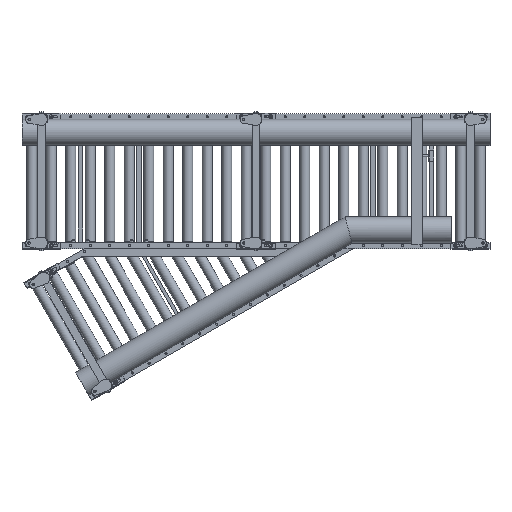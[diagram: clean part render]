
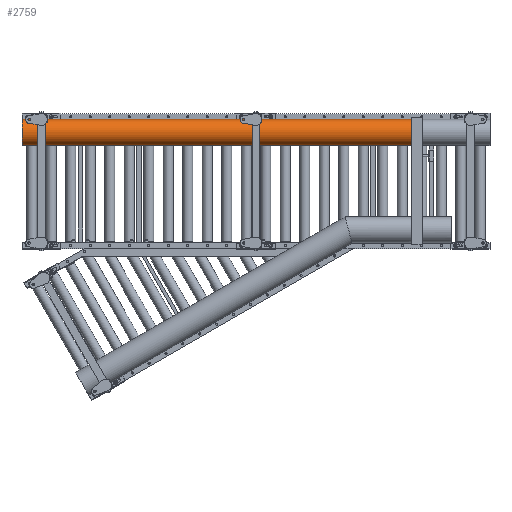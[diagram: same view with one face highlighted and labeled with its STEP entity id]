
A CAD part, front view. The second image highlights one B-rep face of the part: STEP entity #2759.
In plain terms, the highlighted cylindrical face has radius 66.89 mm (diameter 133.78 mm), a partial arc.
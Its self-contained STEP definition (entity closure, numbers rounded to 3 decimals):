
#2759=ADVANCED_FACE('',(#10707),#10706,.T.);
#10706=CYLINDRICAL_SURFACE('',#52342,66.89);
#10707=FACE_OUTER_BOUND('',#52343,.T.);
#52339=CARTESIAN_POINT('',(-2577.652,-150.,250.11));
#52340=DIRECTION('',(-1.,0.,0.));
#52341=DIRECTION('',(0.,0.,1.));
#52342=AXIS2_PLACEMENT_3D('',#52339,#52340,#52341);
#52343=EDGE_LOOP('',(#75222,#75223,#75224,#75225));
#75222=ORIENTED_EDGE('',*,*,#96773,.T.);
#75223=ORIENTED_EDGE('',*,*,#96715,.T.);
#75224=ORIENTED_EDGE('',*,*,#96736,.F.);
#75225=ORIENTED_EDGE('',*,*,#96563,.T.);
#96563=EDGE_CURVE('',#114920,#114913,#114921,.T.);
#96715=EDGE_CURVE('',#115865,#115884,#115891,.T.);
#96736=EDGE_CURVE('',#114920,#115884,#116026,.T.);
#96773=EDGE_CURVE('',#114913,#115865,#116274,.T.);
#114913=VERTEX_POINT('',#187387);
#114920=VERTEX_POINT('',#187391);
#114921=CIRCLE('',#187395,66.89);
#115865=VERTEX_POINT('',#187897);
#115884=VERTEX_POINT('',#187907);
#115891=CIRCLE('',#187914,66.89);
#116026=LINE('',#187984,#187985);
#116274=LINE('',#188121,#188122);
#187387=CARTESIAN_POINT('',(-2400.,-150.,183.22));
#187391=CARTESIAN_POINT('',(-2400.,-150.,317.));
#187392=CARTESIAN_POINT('',(-2400.,-150.,250.11));
#187393=DIRECTION('',(1.,0.,0.));
#187394=DIRECTION('',(0.,0.,-1.));
#187395=AXIS2_PLACEMENT_3D('',#187392,#187393,#187394);
#187897=CARTESIAN_POINT('',(-402.5,-150.,183.22));
#187907=CARTESIAN_POINT('',(-402.5,-150.,317.));
#187911=CARTESIAN_POINT('',(-402.5,-150.,250.11));
#187912=DIRECTION('',(-1.,0.,0.));
#187913=DIRECTION('',(0.,0.,1.));
#187914=AXIS2_PLACEMENT_3D('',#187911,#187912,#187913);
#187984=CARTESIAN_POINT('',(-2400.,-150.,317.));
#187985=VECTOR('',#187986,1997.5);
#187986=DIRECTION('',(1.,0.,0.));
#188121=CARTESIAN_POINT('',(-2400.,-150.,183.22));
#188122=VECTOR('',#188123,1997.5);
#188123=DIRECTION('',(1.,0.,0.));
